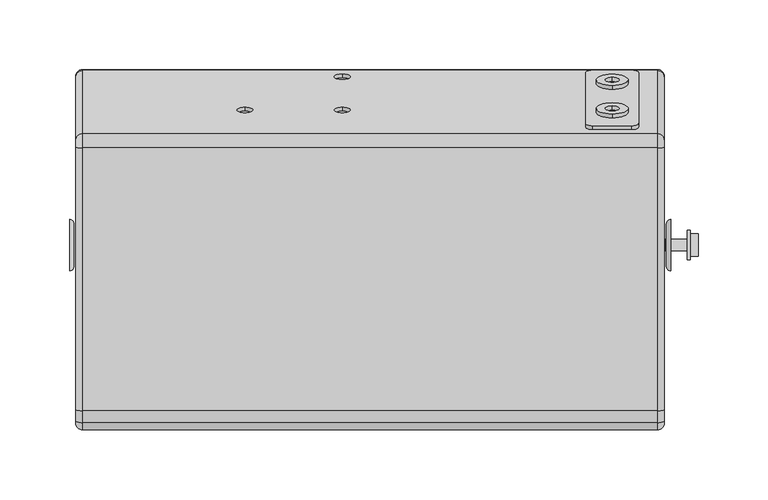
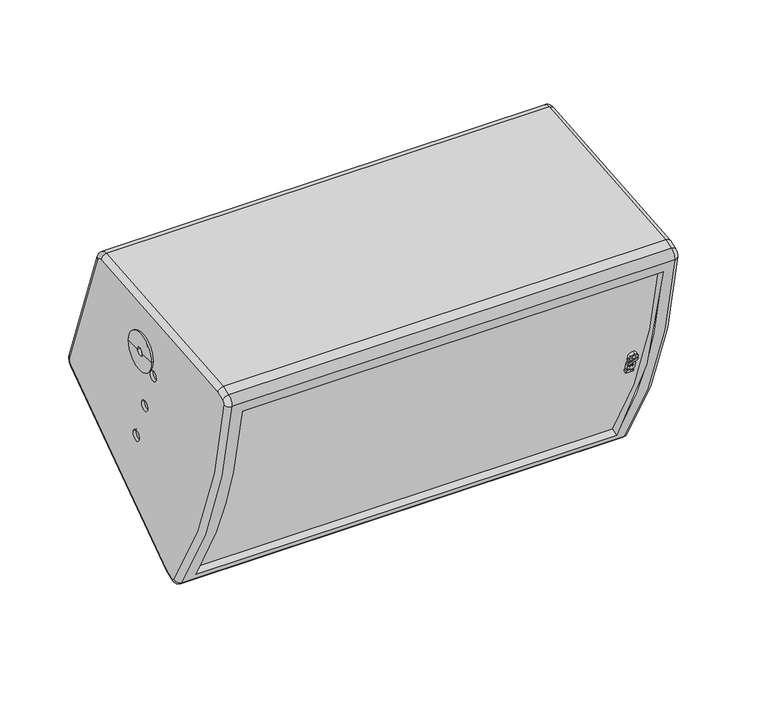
"""IFC4 building model written with IfcOpenShell, lengths in millimetres: proxy geometry, ePS8-WM280-HBRK425-WHM : ePS8-WM280-HBRK425-WHM."""

from ifc_helpers import new_model, si_unit, point, frame, frame_2d, origin, place, context, project, spatial, polyline, circle_curve, ellipse_curve, trimmed, segment, composite_curve, outline, extrude, source, transform, mapped, element, save
from ifc_brep_helpers import plane_surface, cylinder_surface, revolved_surface, advanced_brep


def generic_models_b3d32950(model_context):
    return source(origin(), model_context, "Body", "SolidModel", [
        extrude(outline(polyline([(0.0, 0.0), (7.2797671, 0.0), (7.2797671, -1.8923672), (3.1144368, -1.8923672), (7.2797671, -4.6674641), (7.2797671, -11.5183738), (5.4047959, -12.8369462), (3.8052625, -11.7735691), (5.6771026, -10.4040265), (5.6771026, -7.3703972), (4.4228153, -7.3703972), (4.4228153, -9.65351), (2.820085, -9.65351), (2.820085, -7.3703972), (1.6035818, -7.3703972), (1.6035818, -9.7774718), (0.8035818, -9.7774718), (0.0008515, -9.2438131), (0.0008515, -4.9754371), (4.4509076, -4.9657455), (0.0, -2.0264794), (0.0, 0.0)])), frame((182.0590531, -374.994791, -239.642907), z_axis=(0.0, 0.9396926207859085, 0.34202014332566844), x_axis=(1.0, 0.0, 0.0)), (0.0, 0.0, 1.0), 3.0),
        extrude(outline(polyline([(0.0, -9.8851282), (8.2409469, -15.3637474), (8.2409469, -17.5569501), (0.0, -12.078331), (0.0, -9.8851282)])), frame((182.0590531, -374.994791, -239.642907), z_axis=(0.0, 0.9396926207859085, 0.34202014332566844), x_axis=(1.0, 0.0, 0.0)), (0.0, 0.0, 1.0), 3.0),
        extrude(outline(polyline([(0.0, -16.6257623), (0.0, -14.2989717), (1.267957, -13.5511774), (2.8988509, -14.6354031), (0.0, -16.6257623)])), frame((182.0590531, -374.994791, -239.642907), z_axis=(0.0, 0.9396926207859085, 0.34202014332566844), x_axis=(1.0, 0.0, 0.0)), (0.0, 0.0, 1.0), 3.0),
        extrude(outline(composite_curve([segment(trimmed(circle_curve(frame_2d((3.670838, -20.0113735)), 3.9406238), [point((3.670838, -16.0707496))], [point((3.670838, -23.9519973))], False, "CARTESIAN"), True, "CONTINUOUS"), segment(trimmed(circle_curve(frame_2d((3.670838, -20.0113735)), 3.9406238), [point((3.670838, -23.9519973))], [point((3.670838, -16.0707496))], False, "CARTESIAN"), True, "CONTINUOUS")], self_intersect=False), holes=[composite_curve([segment(trimmed(circle_curve(frame_2d((3.670838, -20.0113735)), 2.0681078), [point((3.670838, -17.9432657))], [point((3.670838, -22.0794813))], True, "CARTESIAN"), True, "CONTINUOUS"), segment(trimmed(circle_curve(frame_2d((3.670838, -20.0113735)), 2.0681078), [point((3.670838, -22.0794813))], [point((3.670838, -17.9432657))], True, "CARTESIAN"), True, "CONTINUOUS")], self_intersect=False)]), frame((182.0590531, -374.994791, -239.642907), z_axis=(0.0, 0.9396926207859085, 0.34202014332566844), x_axis=(1.0, 0.0, 0.0)), (0.0, 0.0, 1.0), 3.0),
        extrude(outline(composite_curve([segment(trimmed(circle_curve(frame_2d((0.0, 5.0)), 11.4515227), [point((0.0, 16.4515227))], [point((0.0, -6.4515227))], False, "CARTESIAN"), True, "CONTINUOUS"), segment(trimmed(circle_curve(frame_2d((0.0, 5.0)), 11.4515227), [point((0.0, -6.4515227))], [point((0.0, 16.4515227))], False, "CARTESIAN"), True, "CONTINUOUS")], self_intersect=False), holes=[composite_curve([segment(trimmed(circle_curve(frame_2d((0.0, 5.0)), 5.0), [point((0.0, 10.0))], [point((0.0, 0.0))], True, "CARTESIAN"), True, "CONTINUOUS"), segment(trimmed(circle_curve(frame_2d((0.0, 5.0)), 5.0), [point((0.0, 0.0))], [point((0.0, 10.0))], True, "CARTESIAN"), True, "CONTINUOUS")], self_intersect=False)]), frame((174.0, -181.8350837, -130.0316775), z_axis=(0.0, 0.9396926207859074, 0.3420201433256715), x_axis=(-1.0, 0.0, 0.0)), (0.0, 0.0, 1.0), 3.0),
        extrude(outline(composite_curve([segment(trimmed(circle_curve(frame_2d((0.0, -54.9999999)), 11.4515227), [point((0.0, -43.5484773))], [point((0.0, -66.4515227))], False, "CARTESIAN"), True, "CONTINUOUS"), segment(trimmed(circle_curve(frame_2d((0.0, -54.9999999)), 11.4515227), [point((0.0, -66.4515227))], [point((0.0, -43.5484773))], False, "CARTESIAN"), True, "CONTINUOUS")], self_intersect=False), holes=[composite_curve([segment(trimmed(circle_curve(frame_2d((0.0, -54.9999999)), 5.0), [point((0.0, -49.9999999))], [point((0.0, -60.0))], True, "CARTESIAN"), True, "CONTINUOUS"), segment(trimmed(circle_curve(frame_2d((0.0, -54.9999999)), 5.0), [point((0.0, -60.0))], [point((0.0, -49.9999999))], True, "CARTESIAN"), True, "CONTINUOUS")], self_intersect=False)]), frame((174.0, -181.8350837, -130.0316775), z_axis=(0.0, 0.9396926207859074, 0.3420201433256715), x_axis=(-1.0, 0.0, 0.0)), (0.0, 0.0, 1.0), 3.0),
        extrude(outline(composite_curve([segment(polyline([(-5.0, -5.0000001), (-5.0, 101.0)]), True, "CONTINUOUS"), segment(trimmed(circle_curve(frame_2d((0.0, 101.0)), 5.0), [point((-5.0, 101.0))], [point((0.0, 106.0))], False, "CARTESIAN"), True, "CONTINUOUS"), segment(polyline([(0.0, 106.0), (28.0, 106.0)]), True, "CONTINUOUS"), segment(trimmed(circle_curve(frame_2d((28.0, 101.0)), 5.0), [point((28.0, 106.0))], [point((33.0, 101.0))], False, "CARTESIAN"), True, "CONTINUOUS"), segment(polyline([(33.0, 101.0), (33.0, -5.0000001)]), True, "CONTINUOUS"), segment(trimmed(circle_curve(frame_2d((28.0, -5.0000001)), 5.0), [point((33.0, -5.0000001))], [point((28.0, -10.0000001))], False, "CARTESIAN"), True, "CONTINUOUS"), segment(polyline([(28.0, -10.0000001), (0.0, -10.0000001)]), True, "CONTINUOUS"), segment(trimmed(circle_curve(frame_2d((0.0, -5.0000001)), 5.0), [point((0.0, -10.0000001))], [point((-5.0, -5.0000001))], False, "CARTESIAN"), True, "CONTINUOUS")], self_intersect=False)), frame((160.0, -192.5206249, -109.4448077), z_axis=(0.0, 0.9396926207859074, 0.3420201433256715), x_axis=(1.0, 0.0, 0.0)), (0.0, 0.0, 1.0), 3.0),
        advanced_brep(
        [(-211.5, -159.9778448, -224.3097239), (-211.5, -314.8456884, -332.7493555), (-211.5, -322.8395243, -335.6588738), (-211.5, -326.3840023, -334.4700024), (-211.5, -406.8753946, -113.3217196), (-211.5, -404.9243587, -110.1326448), (-211.5, -396.9305228, -107.2231265), (-211.5, -208.5912202, -90.7455726), (-211.5, -203.4569784, -94.0164454), (-211.5, -158.1472639, -218.503863), (-211.5, -283.6984631, -193.7113599), (-211.5, -274.3015369, -190.2911584), (-211.5, -270.0176574, -231.2990647), (-211.5, -260.6207312, -227.8788633), (-211.5, -297.3792688, -156.123655), (-211.5, -287.9823426, -152.7034536), (211.5, -314.8456884, -332.7493555), (211.5, -159.9778448, -224.3097239), (211.5, -158.1472639, -218.503863), (211.5, -203.4569784, -94.0164454), (211.5, -208.5912202, -90.7455726), (211.5, -396.9305228, -107.2231265), (211.5, -404.9243587, -110.1326448), (211.5, -406.8753946, -113.3217196), (211.5, -326.3840023, -334.4700024), (211.5, -322.8395243, -335.6588738), (211.5, -274.3015369, -190.2911584), (211.5, -283.6984631, -193.7113599), (211.5, -260.6207312, -227.8788633), (211.5, -270.0176574, -231.2990647), (211.5, -287.9823426, -152.7034536), (211.5, -297.3792688, -156.123655), (-206.5, -153.4488008, -216.7937622), (-206.5, -198.7585153, -92.3063447), (206.5, -198.7585153, -92.3063447), (206.5, -153.4488008, -216.7937622), (-20.0043019, -159.9113018, -199.0381864), (-20.0043019, -156.0419184, -209.6692301), (-20.0043019, -183.8527119, -133.259703), (-20.0043019, -179.9833284, -143.8907467), (-90.0043019, -183.8527119, -133.259703), (-90.0043019, -179.9833284, -143.8907467), (-206.5, -411.8372217, -113.9383812), (-206.5, -330.5813648, -337.1870132), (206.4999999, -330.5813648, -337.1870132), (206.5, -411.8372217, -113.9383812), (-196.5, -335.4073452, -329.5914088), (-196.5, -410.6517768, -122.8590322), (196.5, -410.6517768, -122.8590322), (196.5, -335.4073452, -329.5914088), (-206.5, -406.6344595, -105.4341817), (206.5, -406.6344595, -105.4341817), (-206.5, -398.0220591, -102.2995243), (206.5, -398.0220591, -102.2995243), (-206.5, -209.0269989, -85.7645991), (206.5, -209.0269989, -85.7645991), (-206.5, -157.1099626, -228.4054841), (206.5, -157.1099626, -228.4054841), (-206.5, -312.5170233, -337.2226795), (206.5, -312.5170233, -337.2226795), (-206.5, -321.1294236, -340.3573369), (206.5, -321.1294236, -340.3573369), (-208.5, -274.3015369, -190.2911584), (-208.5, -283.6984631, -193.7113599), (-208.5, -260.6207312, -227.8788633), (-208.5, -270.0176574, -231.2990647), (-208.5, -287.9823426, -152.7034536), (-208.5, -297.3792688, -156.123655), (-196.5, -329.0731273, -327.285942), (-196.5, -404.214505, -120.5160569), (196.5, -404.214505, -120.5160569), (196.5, -329.0731273, -327.285942), (208.5, -274.3015369, -190.2911584), (208.5, -283.6984631, -193.7113599), (208.5, -260.6207312, -227.8788633), (208.5, -270.0176574, -231.2990647), (208.5, -287.9823426, -152.7034536), (208.5, -297.3792688, -156.123655), (-20.0043019, -162.7303797, -200.0642469), (-20.0043019, -158.8609962, -210.6952905), (-20.0043019, -186.6717897, -134.2857634), (-20.0043019, -182.8024063, -144.9168071), (-90.0043019, -186.6717897, -134.2857634), (-90.0043019, -182.8024063, -144.9168071)],
        [
            (0, 1),
            (1, 2),
            (2, 3, circle_curve(frame((-211.5, -323.8655848, -332.8397959), z_axis=(-1.0, 0.0, 0.0), x_axis=(0.0, -0.839472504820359, -0.5434021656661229)), 3.0)),
            (3, 4, circle_curve(frame((-211.5, 115.5613142, -48.3926852), z_axis=(-1.0, 0.0, 0.0), x_axis=(0.0, -0.9923654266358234, -0.12333231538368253)), 526.4559755)),
            (4, 5, circle_curve(frame((-211.5, -403.8982983, -112.9517227), z_axis=(-1.0, 0.0, 0.0), x_axis=(0.0, -0.3420201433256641, 0.9396926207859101)), 3.0)),
            (5, 6),
            (6, 7),
            (7, 8, circle_curve(frame((-211.5, -208.1554415, -95.7265461), z_axis=(-1.0, 0.0, 0.0), x_axis=(0.0, 0.9396926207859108, 0.3420201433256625)), 5.0)),
            (8, 9),
            (9, 0, circle_curve(frame((-211.5, -162.845727, -220.2139637), z_axis=(-1.0, 0.0, 0.0), x_axis=(0.0, 0.5735764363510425, -0.8191520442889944)), 5.0)),
            (10, 11, circle_curve(frame((-211.5, -279.0, -192.0012591), z_axis=(1.0, 0.0, 0.0), x_axis=(0.0, -0.9396926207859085, -0.34202014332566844)), 5.0)),
            (11, 10, circle_curve(frame((-211.5, -279.0, -192.0012591), z_axis=(1.0, 0.0, 0.0), x_axis=(0.0, -0.9396926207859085, -0.34202014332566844)), 5.0)),
            (12, 13, circle_curve(frame((-211.5, -265.3191943, -229.588964), z_axis=(1.0, 0.0, 0.0), x_axis=(0.0, -0.9396926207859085, -0.34202014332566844)), 5.0)),
            (13, 12, circle_curve(frame((-211.5, -265.3191943, -229.588964), z_axis=(1.0, 0.0, 0.0), x_axis=(0.0, -0.9396926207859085, -0.34202014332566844)), 5.0)),
            (14, 15, circle_curve(frame((-211.5, -292.6808057, -154.4135543), z_axis=(1.0, 0.0, 0.0), x_axis=(0.0, -0.9396926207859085, -0.34202014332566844)), 5.0)),
            (15, 14, circle_curve(frame((-211.5, -292.6808057, -154.4135543), z_axis=(1.0, 0.0, 0.0), x_axis=(0.0, -0.9396926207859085, -0.34202014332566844)), 5.0)),
            (16, 17),
            (17, 18, circle_curve(frame((211.5, -162.845727, -220.2139637), z_axis=(1.0, 0.0, 0.0), x_axis=(0.0, 0.5735764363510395, -0.8191520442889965)), 5.0)),
            (18, 19),
            (19, 20, circle_curve(frame((211.5, -208.1554415, -95.7265461), z_axis=(1.0, 0.0, 0.0), x_axis=(0.0, 0.9396926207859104, 0.34202014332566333)), 5.0)),
            (20, 21),
            (21, 22),
            (22, 23, circle_curve(frame((211.5, -403.8982983, -112.9517227), z_axis=(1.0, 0.0, 0.0), x_axis=(0.0, -0.3420201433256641, 0.9396926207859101)), 3.0)),
            (23, 24, circle_curve(frame((211.5, 115.5613142, -48.3926852), z_axis=(1.0, 0.0, 0.0), x_axis=(0.0, -0.9923654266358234, -0.12333231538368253)), 526.4559755)),
            (24, 25, circle_curve(frame((211.5, -323.8655848, -332.8397959), z_axis=(1.0, 0.0, 0.0), x_axis=(0.0, -0.839472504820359, -0.5434021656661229)), 3.0)),
            (25, 16),
            (26, 27, circle_curve(frame((211.5, -279.0, -192.0012591), z_axis=(-1.0, 0.0, 0.0), x_axis=(0.0, -0.9396926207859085, -0.34202014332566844)), 5.0)),
            (27, 26, circle_curve(frame((211.5, -279.0, -192.0012591), z_axis=(-1.0, 0.0, 0.0), x_axis=(0.0, -0.9396926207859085, -0.34202014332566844)), 5.0)),
            (28, 29, circle_curve(frame((211.5, -265.3191943, -229.588964), z_axis=(-1.0, 0.0, 0.0), x_axis=(0.0, -0.9396926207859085, -0.34202014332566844)), 5.0)),
            (29, 28, circle_curve(frame((211.5, -265.3191943, -229.588964), z_axis=(-1.0, 0.0, 0.0), x_axis=(0.0, -0.9396926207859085, -0.34202014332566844)), 5.0)),
            (30, 31, circle_curve(frame((211.5, -292.6808057, -154.4135543), z_axis=(-1.0, 0.0, 0.0), x_axis=(0.0, -0.9396926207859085, -0.34202014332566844)), 5.0)),
            (31, 30, circle_curve(frame((211.5, -292.6808057, -154.4135543), z_axis=(-1.0, 0.0, 0.0), x_axis=(0.0, -0.9396926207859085, -0.34202014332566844)), 5.0)),
            (32, 33),
            (33, 34),
            (34, 35),
            (35, 32),
            (36, 37, circle_curve(frame((-20.0043019, -157.9766101, -204.3537083), z_axis=(0.0, -0.9396926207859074, -0.3420201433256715), x_axis=(0.0, 0.3420201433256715, -0.9396926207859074)), 5.6566602)),
            (37, 36, circle_curve(frame((-20.0043019, -157.9766101, -204.3537083), z_axis=(0.0, -0.9396926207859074, -0.3420201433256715), x_axis=(0.0, 0.3420201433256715, -0.9396926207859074)), 5.6566602)),
            (38, 39, circle_curve(frame((-20.0043019, -181.9180201, -138.5752248), z_axis=(0.0, -0.9396926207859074, -0.3420201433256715), x_axis=(0.0, 0.3420201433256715, -0.9396926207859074)), 5.6566602)),
            (39, 38, circle_curve(frame((-20.0043019, -181.9180201, -138.5752248), z_axis=(0.0, -0.9396926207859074, -0.3420201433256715), x_axis=(0.0, 0.3420201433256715, -0.9396926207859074)), 5.6566602)),
            (40, 41, circle_curve(frame((-90.0043019, -181.9180201, -138.5752248), z_axis=(0.0, -0.9396926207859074, -0.3420201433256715), x_axis=(0.0, 0.3420201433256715, -0.9396926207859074)), 5.6566602)),
            (41, 40, circle_curve(frame((-90.0043019, -181.9180201, -138.5752248), z_axis=(0.0, -0.9396926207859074, -0.3420201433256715), x_axis=(0.0, 0.3420201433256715, -0.9396926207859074)), 5.6566602)),
            (42, 43, circle_curve(frame((-206.5, 115.5613142, -48.3926852), z_axis=(1.0, 0.0, 0.0), x_axis=(0.0, -0.34202014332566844, 0.9396926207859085)), 531.4559755)),
            (43, 44),
            (44, 45, circle_curve(frame((206.5, 115.5613142, -48.3926852), z_axis=(-1.0, 0.0, 0.0), x_axis=(0.0, -0.34202014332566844, 0.9396926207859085)), 531.4559755)),
            (45, 42),
            (46, 47, circle_curve(frame((-196.5, 115.5613142, -48.3926852), z_axis=(-1.0, 0.0, 0.0), x_axis=(0.0, -0.34202014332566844, 0.9396926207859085)), 531.4559755)),
            (47, 48),
            (48, 49, circle_curve(frame((196.5, 115.5613142, -48.3926852), z_axis=(1.0, 0.0, 0.0), x_axis=(0.0, -0.34202014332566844, 0.9396926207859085)), 531.4559755)),
            (49, 46),
            (50, 42, circle_curve(frame((-206.5, -403.8982983, -112.9517227), z_axis=(1.0, 0.0, 0.0), x_axis=(0.0, -0.34202014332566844, 0.9396926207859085)), 8.0)),
            (45, 51, circle_curve(frame((206.5, -403.8982983, -112.9517227), z_axis=(-1.0, 0.0, 0.0), x_axis=(0.0, -0.34202014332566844, 0.9396926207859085)), 8.0)),
            (51, 50),
            (52, 50),
            (51, 53),
            (53, 52),
            (54, 52),
            (53, 55),
            (55, 54),
            (33, 54, circle_curve(frame((-206.5, -208.1554415, -95.7265461), z_axis=(1.0, 0.0, 0.0), x_axis=(0.0, -0.34202014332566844, 0.9396926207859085)), 10.0)),
            (55, 34, circle_curve(frame((206.5, -208.1554415, -95.7265461), z_axis=(-1.0, 0.0, 0.0), x_axis=(0.0, -0.34202014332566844, 0.9396926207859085)), 10.0)),
            (56, 32, circle_curve(frame((-206.5, -162.845727, -220.2139637), z_axis=(1.0, 0.0, 0.0), x_axis=(0.0, -0.34202014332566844, 0.9396926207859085)), 10.0)),
            (35, 57, circle_curve(frame((206.5, -162.845727, -220.2139637), z_axis=(-1.0, 0.0, 0.0), x_axis=(0.0, -0.34202014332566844, 0.9396926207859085)), 10.0)),
            (57, 56),
            (58, 56),
            (57, 59),
            (59, 58),
            (60, 58),
            (59, 61),
            (61, 60),
            (43, 60, circle_curve(frame((-206.5, -323.8655848, -332.8397959), z_axis=(1.0, 0.0, 0.0), x_axis=(0.0, -0.34202014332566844, 0.9396926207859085)), 8.0)),
            (61, 44, circle_curve(frame((206.5, -323.8655848, -332.8397959), z_axis=(-1.0, 0.0, 0.0), x_axis=(0.0, -0.34202014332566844, 0.9396926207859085)), 8.0)),
            (62, 63, circle_curve(frame((-208.5, -279.0, -192.0012591), z_axis=(-1.0, 0.0, 0.0), x_axis=(0.0, -0.9396926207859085, -0.34202014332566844)), 5.0)),
            (63, 62, circle_curve(frame((-208.5, -279.0, -192.0012591), z_axis=(-1.0, 0.0, 0.0), x_axis=(0.0, -0.9396926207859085, -0.34202014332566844)), 5.0)),
            (64, 65, circle_curve(frame((-208.5, -265.3191943, -229.588964), z_axis=(-1.0, 0.0, 0.0), x_axis=(0.0, -0.9396926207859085, -0.34202014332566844)), 5.0)),
            (65, 64, circle_curve(frame((-208.5, -265.3191943, -229.588964), z_axis=(-1.0, 0.0, 0.0), x_axis=(0.0, -0.9396926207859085, -0.34202014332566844)), 5.0)),
            (66, 67, circle_curve(frame((-208.5, -292.6808057, -154.4135543), z_axis=(-1.0, 0.0, 0.0), x_axis=(0.0, -0.9396926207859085, -0.34202014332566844)), 5.0)),
            (67, 66, circle_curve(frame((-208.5, -292.6808057, -154.4135543), z_axis=(-1.0, 0.0, 0.0), x_axis=(0.0, -0.9396926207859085, -0.34202014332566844)), 5.0)),
            (62, 11),
            (10, 63),
            (64, 13),
            (12, 65),
            (66, 15),
            (14, 67),
            (46, 68),
            (68, 69, circle_curve(frame((-196.5, 112.4248593, -49.8046593), z_axis=(-1.0, 0.0, 0.0), x_axis=(0.0, -0.34202014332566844, 0.9396926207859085)), 521.4559755)),
            (69, 47),
            (48, 70),
            (70, 71, circle_curve(frame((196.5, 112.4248593, -49.8046593), z_axis=(1.0, 0.0, 0.0), x_axis=(0.0, -0.34202014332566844, 0.9396926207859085)), 521.4559755)),
            (71, 49),
            (69, 70),
            (68, 71),
            (0, 56, circle_curve(frame((-206.5, -159.9778448, -224.3097239), z_axis=(0.0, -0.8191520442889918, -0.5735764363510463), x_axis=(0.0, 0.5735764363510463, -0.8191520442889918)), 5.0)),
            (58, 1, ellipse_curve(frame((-206.5, -314.8456884, -332.7493555), z_axis=(0.0, 0.8870108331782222, 0.46174861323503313), x_axis=(0.0, -0.46174861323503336, 0.8870108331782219)), 5.0431448, 5.0)),
            (9, 32, circle_curve(frame((-206.5, -158.1472639, -218.503863), z_axis=(0.0, 0.34202014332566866, -0.9396926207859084), x_axis=(0.0, 0.9396926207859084, 0.34202014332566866)), 5.0)),
            (8, 33, circle_curve(frame((-206.5, -203.4569784, -94.0164454), z_axis=(0.0, 0.34202014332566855, -0.9396926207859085), x_axis=(0.0, 0.9396926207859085, 0.34202014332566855)), 5.0)),
            (7, 54, circle_curve(frame((-206.5, -208.5912202, -90.7455726), z_axis=(0.0, 0.9961946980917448, 0.08715574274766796), x_axis=(0.0, -0.08715574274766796, 0.9961946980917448)), 5.0)),
            (6, 52, ellipse_curve(frame((-206.5, -396.9305228, -107.2231265), z_axis=(0.0, 0.9762960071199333, 0.21643961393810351), x_axis=(0.0, -0.2164396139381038, 0.9762960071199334)), 5.0431448, 5.0)),
            (60, 2, circle_curve(frame((-206.5, -322.8395243, -335.6588738), z_axis=(0.0, 0.9396926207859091, 0.3420201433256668), x_axis=(0.0, 0.3420201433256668, -0.9396926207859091)), 5.0)),
            (5, 50, circle_curve(frame((-206.5, -404.9243587, -110.1326448), z_axis=(0.0, 0.9396926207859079, 0.3420201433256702), x_axis=(0.0, -0.3420201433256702, 0.9396926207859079)), 5.0)),
            (4, 42, circle_curve(frame((-206.5, -406.8753946, -113.3217196), z_axis=(0.0, -0.12333231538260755, 0.9923654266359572), x_axis=(0.0, -0.9923654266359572, -0.12333231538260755)), 5.0)),
            (3, 43, circle_curve(frame((-206.5, -326.3840023, -334.4700024), z_axis=(0.0, -0.5434021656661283, 0.8394725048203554), x_axis=(0.0, -0.8394725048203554, -0.5434021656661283)), 5.0)),
            (57, 17, circle_curve(frame((206.5, -159.9778448, -224.3097239), z_axis=(0.0, -0.8191520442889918, -0.5735764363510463), x_axis=(0.0, 0.5735764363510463, -0.8191520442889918)), 5.0)),
            (16, 59, ellipse_curve(frame((206.5, -314.8456884, -332.7493555), z_axis=(0.0, 0.8870108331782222, 0.4617486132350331), x_axis=(0.0, -0.4617486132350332, 0.887010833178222)), 5.0431448, 5.0)),
            (35, 18, circle_curve(frame((206.5, -158.1472639, -218.503863), z_axis=(0.0, 0.34202014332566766, -0.9396926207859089), x_axis=(0.0, 0.9396926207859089, 0.34202014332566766)), 5.0)),
            (34, 19, circle_curve(frame((206.5, -203.4569784, -94.0164454), z_axis=(0.0, 0.3420201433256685, -0.9396926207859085), x_axis=(0.0, 0.9396926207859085, 0.3420201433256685)), 5.0)),
            (55, 20, circle_curve(frame((206.5, -208.5912202, -90.7455726), z_axis=(0.0, 0.9961946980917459, 0.08715574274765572), x_axis=(0.0, -0.08715574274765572, 0.9961946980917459)), 5.0)),
            (53, 21, ellipse_curve(frame((206.5, -396.9305228, -107.2231265), z_axis=(0.0, 0.9762960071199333, 0.21643961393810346), x_axis=(0.0, -0.2164396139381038, 0.9762960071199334)), 5.0431448, 5.0)),
            (25, 61, circle_curve(frame((206.5, -322.8395243, -335.6588738), z_axis=(0.0, 0.9396926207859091, 0.34202014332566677), x_axis=(0.0, 0.34202014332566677, -0.9396926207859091)), 5.0)),
            (51, 22, circle_curve(frame((206.5, -404.9243587, -110.1326448), z_axis=(0.0, 0.9396926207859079, 0.3420201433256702), x_axis=(0.0, -0.3420201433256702, 0.9396926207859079)), 5.0)),
            (45, 23, circle_curve(frame((206.5, -406.8753946, -113.3217196), z_axis=(0.0, -0.12333231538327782, 0.9923654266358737), x_axis=(0.0, -0.9923654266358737, -0.12333231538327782)), 5.0)),
            (44, 24, circle_curve(frame((206.5, -326.3840023, -334.4700024), z_axis=(0.0, -0.5434021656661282, 0.8394725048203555), x_axis=(0.0, -0.8394725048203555, -0.5434021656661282)), 5.0)),
            (72, 73, circle_curve(frame((208.5, -279.0, -192.0012591), z_axis=(1.0, 0.0, 0.0), x_axis=(0.0, -0.9396926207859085, -0.34202014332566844)), 5.0)),
            (73, 72, circle_curve(frame((208.5, -279.0, -192.0012591), z_axis=(1.0, 0.0, 0.0), x_axis=(0.0, -0.9396926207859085, -0.34202014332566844)), 5.0)),
            (74, 75, circle_curve(frame((208.5, -265.3191943, -229.588964), z_axis=(1.0, 0.0, 0.0), x_axis=(0.0, -0.9396926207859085, -0.34202014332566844)), 5.0)),
            (75, 74, circle_curve(frame((208.5, -265.3191943, -229.588964), z_axis=(1.0, 0.0, 0.0), x_axis=(0.0, -0.9396926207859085, -0.34202014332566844)), 5.0)),
            (76, 77, circle_curve(frame((208.5, -292.6808057, -154.4135543), z_axis=(1.0, 0.0, 0.0), x_axis=(0.0, -0.9396926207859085, -0.34202014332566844)), 5.0)),
            (77, 76, circle_curve(frame((208.5, -292.6808057, -154.4135543), z_axis=(1.0, 0.0, 0.0), x_axis=(0.0, -0.9396926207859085, -0.34202014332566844)), 5.0)),
            (73, 27),
            (26, 72),
            (75, 29),
            (28, 74),
            (77, 31),
            (30, 76),
            (78, 79, circle_curve(frame((-20.0043019, -160.795688, -205.3797687), z_axis=(0.0, 0.9396926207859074, 0.3420201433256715), x_axis=(0.0, 0.3420201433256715, -0.9396926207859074)), 5.6566602)),
            (79, 78, circle_curve(frame((-20.0043019, -160.795688, -205.3797687), z_axis=(0.0, 0.9396926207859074, 0.3420201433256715), x_axis=(0.0, 0.3420201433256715, -0.9396926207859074)), 5.6566602)),
            (80, 81, circle_curve(frame((-20.0043019, -184.737098, -139.6012852), z_axis=(0.0, 0.9396926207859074, 0.3420201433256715), x_axis=(0.0, 0.3420201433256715, -0.9396926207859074)), 5.6566602)),
            (81, 80, circle_curve(frame((-20.0043019, -184.737098, -139.6012852), z_axis=(0.0, 0.9396926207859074, 0.3420201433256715), x_axis=(0.0, 0.3420201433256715, -0.9396926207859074)), 5.6566602)),
            (82, 83, circle_curve(frame((-90.0043019, -184.737098, -139.6012852), z_axis=(0.0, 0.9396926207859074, 0.3420201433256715), x_axis=(0.0, 0.3420201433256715, -0.9396926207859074)), 5.6566602)),
            (83, 82, circle_curve(frame((-90.0043019, -184.737098, -139.6012852), z_axis=(0.0, 0.9396926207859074, 0.3420201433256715), x_axis=(0.0, 0.3420201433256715, -0.9396926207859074)), 5.6566602)),
            (79, 37),
            (36, 78),
            (81, 39),
            (38, 80),
            (83, 41),
            (40, 82),
        ],
        [
            plane_surface(frame((-211.5, -406.6344595, -105.4341817), z_axis=(-1.0, 0.0, 0.0), x_axis=(0.0, 0.9396926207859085, 0.34202014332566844))),
            plane_surface(frame((211.5, -406.6344595, -105.4341817), z_axis=(1.0, 0.0, 0.0), x_axis=(0.0, -0.9396926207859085, -0.34202014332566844))),
            plane_surface(frame((-211.5, -198.7585153, -92.3063447), z_axis=(0.0, 0.9396926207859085, 0.34202014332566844), x_axis=(1.0, 0.0, 0.0))),
            cylinder_surface(frame((211.5, 115.5613142, -48.3926852), z_axis=(-1.0, 0.0, 0.0), x_axis=(0.0, -0.34202014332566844, 0.9396926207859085)), 531.4559755),
            cylinder_surface(frame((211.5, -403.8982983, -112.9517227), z_axis=(-1.0, 0.0, 0.0), x_axis=(0.0, -0.34202014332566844, 0.9396926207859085)), 8.0),
            plane_surface(frame((-211.5, -406.6344595, -105.4341817), z_axis=(0.0, -0.34202014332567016, 0.9396926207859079), x_axis=(1.0, 0.0, 0.0))),
            plane_surface(frame((-211.5, -398.0220591, -102.2995243), z_axis=(0.0, -0.08715574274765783, 0.9961946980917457), x_axis=(1.0, 0.0, 0.0))),
            cylinder_surface(frame((211.5, -208.1554415, -95.7265461), z_axis=(-1.0, 0.0, 0.0), x_axis=(0.0, -0.34202014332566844, 0.9396926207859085)), 10.0),
            cylinder_surface(frame((211.5, -162.845727, -220.2139637), z_axis=(-1.0, 0.0, 0.0), x_axis=(0.0, -0.34202014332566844, 0.9396926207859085)), 10.0),
            plane_surface(frame((-211.5, -157.1099626, -228.4054841), z_axis=(0.0, 0.5735764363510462, -0.8191520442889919), x_axis=(1.0, 0.0, 0.0))),
            plane_surface(frame((-211.5, -312.5170233, -337.2226795), z_axis=(0.0, 0.3420201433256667, -0.9396926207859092), x_axis=(1.0, 0.0, 0.0))),
            cylinder_surface(frame((211.5, -323.8655848, -332.8397959), z_axis=(-1.0, 0.0, 0.0), x_axis=(0.0, -0.34202014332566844, 0.9396926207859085)), 8.0),
            plane_surface(frame((-208.5, -283.6984631, -193.7113599), z_axis=(-1.0, 0.0, 0.0), x_axis=(0.0, 0.34202014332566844, -0.9396926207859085))),
            revolved_surface(polyline([(-211.5, -283.69846310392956, -193.71135981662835), (-208.5, -283.69846310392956, -193.71135981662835)]), (-208.5, -279.0, -192.0012591), (-1.0, 0.0, 0.0)),
            revolved_surface(polyline([(-211.5, -270.01765740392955, -231.29906471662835), (-208.5, -270.01765740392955, -231.29906471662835)]), (-211.5, -265.3191943, -229.588964), (-1.0, 0.0, 0.0)),
            revolved_surface(polyline([(-211.5, -297.37926880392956, -156.12365501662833), (-208.5, -297.37926880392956, -156.12365501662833)]), (-211.5, -292.6808057, -154.4135543), (-1.0, 0.0, 0.0)),
            plane_surface(frame((-196.5, -464.8680464, -142.5921405), z_axis=(1.0, 0.0, 0.0), x_axis=(0.0, 0.9396926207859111, 0.3420201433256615))),
            plane_surface(frame((196.5, -464.8680464, -142.5921405), z_axis=(-1.0, 0.0, 0.0), x_axis=(0.0, -0.9396926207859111, -0.3420201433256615))),
            plane_surface(frame((-196.5, -410.6517768, -122.8590322), z_axis=(0.0, 0.3420201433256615, -0.9396926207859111), x_axis=(1.0, 0.0, 0.0))),
            cylinder_surface(frame((196.5, 112.4248593, -49.8046593), z_axis=(1.0, 0.0, 0.0), x_axis=(0.0, -0.34202014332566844, 0.9396926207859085)), 521.4559755),
            plane_surface(frame((-196.5, -329.0731273, -327.285942), z_axis=(0.0, -0.3420201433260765, 0.93969262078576), x_axis=(1.0, 0.0, 0.0))),
            cylinder_surface(frame((-206.5, -315.3849055, -333.1269193), z_axis=(0.0, 0.8191520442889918, 0.5735764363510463), x_axis=(0.0, 0.5735764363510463, -0.8191520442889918)), 5.0),
            revolved_surface(trimmed(ellipse_curve(frame((-206.5, -159.9778448, -224.3097239), z_axis=(0.0, -0.8191520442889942, -0.5735764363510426), x_axis=(0.0, 0.5735764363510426, -0.8191520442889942)), 5.0, 5.0), [point((-211.5, -159.9778448, -224.3097239))], [point((-206.5, -157.1099626, -228.4054841))], True, "CARTESIAN"), (-211.5, -162.845727, -220.2139637), (1.0, 0.0, 0.0)),
            cylinder_surface(frame((-206.5, -158.1472639, -218.503863), z_axis=(0.0, -0.34202014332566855, 0.9396926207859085), x_axis=(0.0, 0.9396926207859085, 0.34202014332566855)), 5.0),
            revolved_surface(trimmed(ellipse_curve(frame((-206.5, -203.4569784, -94.0164454), z_axis=(0.0, 0.34202014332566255, -0.9396926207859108), x_axis=(0.0, 0.9396926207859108, 0.34202014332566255)), 5.0, 5.0), [point((-211.5, -203.4569784, -94.0164454))], [point((-206.5, -198.7585153, -92.3063447))], True, "CARTESIAN"), (-211.5, -208.1554415, -95.7265461), (1.0, 0.0, 0.0)),
            cylinder_surface(frame((-206.5, -208.5912202, -90.7455726), z_axis=(0.0, -0.9961946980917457, -0.08715574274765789), x_axis=(0.0, -0.08715574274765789, 0.9961946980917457)), 5.0),
            cylinder_surface(frame((-206.5, -322.8395243, -335.6588738), z_axis=(0.0, 0.9396926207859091, 0.3420201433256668), x_axis=(0.0, 0.3420201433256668, -0.9396926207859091)), 5.0),
            cylinder_surface(frame((-206.5, -396.3119584, -106.9979874), z_axis=(0.0, -0.9396926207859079, -0.3420201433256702), x_axis=(0.0, -0.3420201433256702, 0.9396926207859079)), 5.0),
            revolved_surface(trimmed(ellipse_curve(frame((-206.5, -404.9243587, -110.1326448), z_axis=(0.0, 0.9396926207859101, 0.34202014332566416), x_axis=(0.0, -0.34202014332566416, 0.9396926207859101)), 5.0, 5.0), [point((-211.5, -404.9243587, -110.1326448))], [point((-206.5, -406.6344595, -105.4341817))], True, "CARTESIAN"), (-211.5, -403.8982983, -112.9517227), (1.0, 0.0, 0.0)),
            revolved_surface(trimmed(ellipse_curve(frame((-206.5, -406.8753946, -113.3217196), z_axis=(0.0, -0.12333231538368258, 0.9923654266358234), x_axis=(0.0, -0.9923654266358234, -0.12333231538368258)), 5.0, 5.0), [point((-211.5, -406.8753946, -113.3217196))], [point((-206.5, -411.8372217, -113.9383812))], True, "CARTESIAN"), (-211.5, 115.5613142, -48.3926852), (1.0, 0.0, 0.0)),
            revolved_surface(trimmed(ellipse_curve(frame((-206.5, -326.3840023, -334.4700024), z_axis=(0.0, -0.543402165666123, 0.8394725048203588), x_axis=(0.0, -0.8394725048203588, -0.543402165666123)), 5.0, 5.0), [point((-211.5, -326.3840023, -334.4700024))], [point((-206.5, -330.5813648, -337.1870132))], True, "CARTESIAN"), (-211.5, -323.8655848, -332.8397959), (1.0, 0.0, 0.0)),
            cylinder_surface(frame((206.5, -315.3849055, -333.1269193), z_axis=(0.0, 0.8191520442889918, 0.5735764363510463), x_axis=(0.0, 0.5735764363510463, -0.8191520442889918)), 5.0),
            revolved_surface(trimmed(ellipse_curve(frame((206.5, -159.9778448, -224.3097239), z_axis=(0.0, -0.8191520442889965, -0.5735764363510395), x_axis=(0.0, 0.5735764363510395, -0.8191520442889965)), 5.0, 5.0), [point((206.5, -157.1099626, -228.4054841))], [point((211.5, -159.9778448, -224.3097239))], True, "CARTESIAN"), (211.5, -162.845727, -220.2139637), (1.0, 0.0, 0.0)),
            cylinder_surface(frame((206.5, -158.1472639, -218.503863), z_axis=(0.0, -0.3420201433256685, 0.9396926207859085), x_axis=(0.0, 0.9396926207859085, 0.3420201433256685)), 5.0),
            revolved_surface(trimmed(ellipse_curve(frame((206.5, -203.4569784, -94.0164454), z_axis=(0.0, 0.3420201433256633, -0.9396926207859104), x_axis=(0.0, 0.9396926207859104, 0.3420201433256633)), 5.0, 5.0), [point((206.5, -198.7585153, -92.3063447))], [point((211.5, -203.4569784, -94.0164454))], True, "CARTESIAN"), (211.5, -208.1554415, -95.7265461), (1.0, 0.0, 0.0)),
            cylinder_surface(frame((206.5, -208.5912202, -90.7455726), z_axis=(0.0, -0.9961946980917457, -0.08715574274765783), x_axis=(0.0, -0.08715574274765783, 0.9961946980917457)), 5.0),
            cylinder_surface(frame((206.5, -322.8395243, -335.6588738), z_axis=(0.0, 0.9396926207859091, 0.34202014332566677), x_axis=(0.0, 0.34202014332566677, -0.9396926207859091)), 5.0),
            cylinder_surface(frame((206.5, -396.3119584, -106.9979874), z_axis=(0.0, -0.9396926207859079, -0.3420201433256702), x_axis=(0.0, -0.3420201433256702, 0.9396926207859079)), 5.0),
            revolved_surface(trimmed(ellipse_curve(frame((206.5, -404.9243587, -110.1326448), z_axis=(0.0, 0.9396926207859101, 0.34202014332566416), x_axis=(0.0, -0.34202014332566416, 0.9396926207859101)), 5.0, 5.0), [point((206.5, -406.6344595, -105.4341817))], [point((211.5, -404.9243587, -110.1326448))], True, "CARTESIAN"), (211.5, -403.8982983, -112.9517227), (1.0, 0.0, 0.0)),
            revolved_surface(trimmed(ellipse_curve(frame((206.5, -406.8753946, -113.3217196), z_axis=(0.0, -0.12333231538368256, 0.9923654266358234), x_axis=(0.0, -0.9923654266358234, -0.12333231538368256)), 5.0, 5.0), [point((206.5, -411.8372217, -113.9383812))], [point((211.5, -406.8753946, -113.3217196))], True, "CARTESIAN"), (211.5, 115.5613142, -48.3926852), (1.0, 0.0, 0.0)),
            revolved_surface(trimmed(ellipse_curve(frame((206.5, -326.3840023, -334.4700024), z_axis=(0.0, -0.543402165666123, 0.8394725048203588), x_axis=(0.0, -0.8394725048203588, -0.543402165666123)), 5.0, 5.0), [point((206.5, -330.5813648, -337.1870132))], [point((211.5, -326.3840023, -334.4700024))], True, "CARTESIAN"), (211.5, -323.8655848, -332.8397959), (1.0, 0.0, 0.0)),
            plane_surface(frame((208.5, -283.6984631, -193.7113599), z_axis=(1.0, 0.0, 0.0), x_axis=(0.0, -0.34202014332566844, 0.9396926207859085))),
            revolved_surface(polyline([(208.5, -283.69846310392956, -193.71135981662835), (211.5, -283.69846310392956, -193.71135981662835)]), (214.5, -279.0, -192.0012591), (-1.0, 0.0, 0.0)),
            revolved_surface(polyline([(208.5, -270.01765740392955, -231.29906471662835), (211.5, -270.01765740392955, -231.29906471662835)]), (211.5, -265.3191943, -229.588964), (-1.0, 0.0, 0.0)),
            revolved_surface(polyline([(208.5, -297.37926880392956, -156.12365501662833), (211.5, -297.37926880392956, -156.12365501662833)]), (211.5, -292.6808057, -154.4135543), (-1.0, 0.0, 0.0)),
            plane_surface(frame((-20.0043019, -158.8609962, -210.6952905), z_axis=(0.0, 0.9396926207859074, 0.3420201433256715), x_axis=(1.0, 0.0, 0.0))),
            revolved_surface(polyline([(-20.0043019, -156.04191833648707, -209.66923009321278), (-20.0043019, -158.8609962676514, -210.69529054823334)]), (-20.0043019, -160.795688, -205.3797687), (0.0, 0.9396926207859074, 0.3420201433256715)),
            revolved_surface(polyline([(-20.0043019, -179.98332836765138, -143.89074664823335), (-20.0043019, -182.80240629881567, -144.91680710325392)]), (-20.0043019, -181.9180201, -138.5752248), (0.0, 0.9396926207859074, 0.3420201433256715)),
            revolved_surface(polyline([(-90.0043019, -179.98332836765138, -143.89074664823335), (-90.0043019, -182.80240629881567, -144.91680710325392)]), (-90.0043019, -181.9180201, -138.5752248), (0.0, 0.9396926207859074, 0.3420201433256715)),
        ],
        [
            (0, [[1, 2, 3, 4, 5, 6, 7, 8, 9, 10], [11, 12], [13, 14], [15, 16]]),
            (1, [[17, 18, 19, 20, 21, 22, 23, 24, 25, 26], [27, 28], [29, 30], [31, 32]]),
            (2, [[33, 34, 35, 36], [37, 38], [39, 40], [41, 42]]),
            (3, [[43, 44, 45, 46], [47, 48, 49, 50]]),
            (4, [[51, -46, 52, 53]]),
            (5, [[54, -53, 55, 56]]),
            (6, [[57, -56, 58, 59]]),
            (7, [[60, -59, 61, -34]]),
            (8, [[62, -36, 63, 64]]),
            (9, [[65, -64, 66, 67]]),
            (10, [[68, -67, 69, 70]]),
            (11, [[71, -70, 72, -44]]),
            (12, [[73, 74]]),
            (12, [[75, 76]]),
            (12, [[77, 78]]),
            (13, [[-73, 79, -11, 80]]),
            (13, [[-74, -80, -12, -79]]),
            (14, [[-75, 81, -13, 82]]),
            (14, [[-76, -82, -14, -81]]),
            (15, [[-77, 83, -15, 84]]),
            (15, [[-78, -84, -16, -83]]),
            (16, [[85, 86, 87, -47]]),
            (17, [[88, 89, 90, -49]]),
            (18, [[-87, 91, -88, -48]]),
            (19, [[-86, 92, -89, -91]]),
            (20, [[-85, -50, -90, -92]]),
            (21, [[93, -65, 94, -1]]),
            (22, [[-93, -10, 95, -62]]),
            (23, [[-95, -9, 96, -33]]),
            (24, [[-96, -8, 97, -60]]),
            (25, [[-97, -7, 98, -57]]),
            (26, [[-94, -68, 99, -2]]),
            (27, [[-98, -6, 100, -54]]),
            (28, [[-100, -5, 101, -51]]),
            (29, [[-101, -4, 102, -43]]),
            (30, [[-99, -71, -102, -3]]),
            (31, [[103, -17, 104, -66]]),
            (32, [[-103, -63, 105, -18]]),
            (33, [[-105, -35, 106, -19]]),
            (34, [[-106, -61, 107, -20]]),
            (35, [[-107, -58, 108, -21]]),
            (36, [[-104, -26, 109, -69]]),
            (37, [[-108, -55, 110, -22]]),
            (38, [[-110, -52, 111, -23]]),
            (39, [[-111, -45, 112, -24]]),
            (40, [[-109, -25, -112, -72]]),
            (41, [[113, 114]]),
            (41, [[115, 116]]),
            (41, [[117, 118]]),
            (42, [[-114, 119, -27, 120]]),
            (42, [[-113, -120, -28, -119]]),
            (43, [[-116, 121, -29, 122]]),
            (43, [[-115, -122, -30, -121]]),
            (44, [[-118, 123, -31, 124]]),
            (44, [[-117, -124, -32, -123]]),
            (45, [[125, 126]]),
            (45, [[127, 128]]),
            (45, [[129, 130]]),
            (46, [[-126, 131, -37, 132]]),
            (46, [[-125, -132, -38, -131]]),
            (47, [[-128, 133, -39, 134]]),
            (47, [[-127, -134, -40, -133]]),
            (48, [[-130, 135, -41, 136]]),
            (48, [[-129, -136, -42, -135]]),
        ],
    ),
        advanced_brep(
        [(216.0, -275.027433, -137.0012591), (216.0, -282.972567, -137.0012591), (216.0, -297.442415, -137.0012591), (216.0, -260.557585, -137.0012591), (213.0, -294.442415, -137.0012591), (213.0, -263.557585, -137.0012591), (213.0, -282.972567, -137.0012591), (213.0, -275.027433, -137.0012591)],
        [
            (0, 1, circle_curve(frame((216.0, -279.0, -137.0012591), z_axis=(-1.0, 0.0, 0.0), x_axis=(0.0, -1.0, 0.0)), 3.972567)),
            (1, 2),
            (2, 3, circle_curve(frame((216.0, -279.0, -137.0012591), z_axis=(1.0, 0.0, 0.0), x_axis=(0.0, -1.0, 0.0)), 18.442415)),
            (3, 0),
            (1, 0, circle_curve(frame((216.0, -279.0, -137.0012591), z_axis=(-1.0, 0.0, 0.0), x_axis=(0.0, -1.0, 0.0)), 3.972567)),
            (3, 2, circle_curve(frame((216.0, -279.0, -137.0012591), z_axis=(1.0, 0.0, 0.0), x_axis=(0.0, -1.0, 0.0)), 18.442415)),
            (2, 4, circle_curve(frame((216.0, -294.442415, -137.0012591), z_axis=(0.0, 0.0, -1.0), x_axis=(-1.0, 0.0, 0.0)), 3.0)),
            (4, 5, circle_curve(frame((213.0, -279.0, -137.0012591), z_axis=(1.0, 0.0, 0.0), x_axis=(0.0, -1.0, 0.0)), 15.442415)),
            (5, 3, circle_curve(frame((216.0, -263.557585, -137.0012591), z_axis=(0.0, 0.0, -1.0), x_axis=(-1.0, 0.0, 0.0)), 3.0)),
            (5, 4, circle_curve(frame((213.0, -279.0, -137.0012591), z_axis=(1.0, 0.0, 0.0), x_axis=(0.0, -1.0, 0.0)), 15.442415)),
            (4, 6),
            (6, 7, circle_curve(frame((213.0, -279.0, -137.0012591), z_axis=(1.0, 0.0, 0.0), x_axis=(0.0, -1.0, 0.0)), 3.972567)),
            (7, 5),
            (7, 6, circle_curve(frame((213.0, -279.0, -137.0012591), z_axis=(1.0, 0.0, 0.0), x_axis=(0.0, -1.0, 0.0)), 3.972567)),
            (6, 1),
            (0, 7),
        ],
        [
            plane_surface(frame((216.0, -279.0, -137.0012591), z_axis=(1.0, 0.0, 0.0), x_axis=(0.0, -1.0, 0.0))),
            revolved_surface(trimmed(ellipse_curve(frame((216.0, -294.442415, -137.0012591), z_axis=(0.0, 0.0, 1.0), x_axis=(-1.0, 0.0, 0.0)), 3.0, 3.0), [point((213.0, -294.442415, -137.0012591))], [point((216.0, -297.442415, -137.0012591))], True, "CARTESIAN"), (203.2578639, -279.0, -137.0012591), (1.0, 0.0, 0.0)),
            plane_surface(frame((213.0, -279.0, -137.0012591), z_axis=(-1.0, 0.0, 0.0), x_axis=(0.0, -1.0, 0.0))),
            revolved_surface(polyline([(216.0, -282.972567, -137.0012591), (213.0, -282.972567, -137.0012591)]), (203.2578639, -279.0, -137.0012591), (1.0, 0.0, 0.0)),
        ],
        [
            (0, [[1, 2, 3, 4]]),
            (0, [[5, -4, 6, -2]]),
            (1, [[-3, 7, 8, 9]]),
            (1, [[-6, -9, 10, -7]]),
            (2, [[-8, 11, 12, 13]]),
            (2, [[-10, -13, 14, -11]]),
            (3, [[-12, 15, -1, 16]]),
            (3, [[-14, -16, -5, -15]]),
        ],
    ),
        advanced_brep(
        [(-216.0, -260.557585, -137.0012591), (-216.0, -297.442415, -137.0012591), (-216.0, -282.972567, -137.0012591), (-216.0, -275.027433, -137.0012591), (-213.0, -263.557585, -137.0012591), (-213.0, -294.442415, -137.0012591), (-213.0, -275.027433, -137.0012591), (-213.0, -282.972567, -137.0012591)],
        [
            (0, 1, circle_curve(frame((-216.0, -279.0, -137.0012591), z_axis=(-1.0, 0.0, 0.0), x_axis=(0.0, -1.0, 0.0)), 18.442415)),
            (1, 2),
            (2, 3, circle_curve(frame((-216.0, -279.0, -137.0012591), z_axis=(1.0, 0.0, 0.0), x_axis=(0.0, -1.0, 0.0)), 3.972567)),
            (3, 0),
            (1, 0, circle_curve(frame((-216.0, -279.0, -137.0012591), z_axis=(-1.0, 0.0, 0.0), x_axis=(0.0, -1.0, 0.0)), 18.442415)),
            (3, 2, circle_curve(frame((-216.0, -279.0, -137.0012591), z_axis=(1.0, 0.0, 0.0), x_axis=(0.0, -1.0, 0.0)), 3.972567)),
            (4, 5, circle_curve(frame((-213.0, -279.0, -137.0012591), z_axis=(-1.0, 0.0, 0.0), x_axis=(0.0, -1.0, 0.0)), 15.442415)),
            (5, 1, circle_curve(frame((-216.0, -294.442415, -137.0012591), z_axis=(0.0, 0.0, -1.0), x_axis=(1.0, 0.0, 0.0)), 3.0)),
            (0, 4, circle_curve(frame((-216.0, -263.557585, -137.0012591), z_axis=(0.0, 0.0, -1.0), x_axis=(1.0, 0.0, 0.0)), 3.0)),
            (5, 4, circle_curve(frame((-213.0, -279.0, -137.0012591), z_axis=(-1.0, 0.0, 0.0), x_axis=(0.0, -1.0, 0.0)), 15.442415)),
            (6, 7, circle_curve(frame((-213.0, -279.0, -137.0012591), z_axis=(-1.0, 0.0, 0.0), x_axis=(0.0, -1.0, 0.0)), 3.972567)),
            (7, 5),
            (4, 6),
            (7, 6, circle_curve(frame((-213.0, -279.0, -137.0012591), z_axis=(-1.0, 0.0, 0.0), x_axis=(0.0, -1.0, 0.0)), 3.972567)),
            (2, 7),
            (6, 3),
        ],
        [
            plane_surface(frame((-216.0, -279.0, -137.0012591), z_axis=(-1.0, 0.0, 0.0), x_axis=(0.0, -1.0, 0.0))),
            revolved_surface(trimmed(ellipse_curve(frame((-216.0, -294.442415, -137.0012591), z_axis=(0.0, 0.0, 1.0), x_axis=(1.0, 0.0, 0.0)), 3.0, 3.0), [point((-216.0, -297.442415, -137.0012591))], [point((-213.0, -294.442415, -137.0012591))], True, "CARTESIAN"), (-203.2578639, -279.0, -137.0012591), (1.0, 0.0, 0.0)),
            plane_surface(frame((-213.0, -279.0, -137.0012591), z_axis=(1.0, 0.0, 0.0), x_axis=(0.0, -1.0, 0.0))),
            revolved_surface(polyline([(-213.0, -282.972567, -137.0012591), (-216.0, -282.972567, -137.0012591)]), (-203.2578639, -279.0, -137.0012591), (1.0, 0.0, 0.0)),
        ],
        [
            (0, [[1, 2, 3, 4]]),
            (0, [[5, -4, 6, -2]]),
            (1, [[7, 8, -1, 9]]),
            (1, [[10, -9, -5, -8]]),
            (2, [[11, 12, -7, 13]]),
            (2, [[14, -13, -10, -12]]),
            (3, [[-3, 15, -11, 16]]),
            (3, [[-6, -16, -14, -15]]),
        ],
    ),
        advanced_brep(
        [(216.0, -274.9446423, -192.0012591), (216.0, -283.0553577, -192.0012591), (216.0, -297.442415, -192.0012591), (216.0, -260.557585, -192.0012591), (213.0, -294.442415, -192.0012591), (213.0, -263.557585, -192.0012591), (213.0, -283.0553577, -192.0012591), (213.0, -274.9446423, -192.0012591), (212.0, -283.0553577, -192.0012591), (212.0, -274.9446423, -192.0012591), (212.0, -279.0, -192.0012591), (236.0, -279.0, -192.0012591), (236.0, -287.0750303, -192.0012591), (236.0, -270.9249697, -192.0012591), (230.0, -287.0750303, -192.0012591), (230.0, -270.9249697, -192.0012591), (230.0, -289.555922, -192.0012591), (230.0, -268.444078, -192.0012591), (228.0, -289.555922, -192.0012591), (228.0, -268.444078, -192.0012591), (228.0, -283.0553577, -192.0012591), (228.0, -274.9446423, -192.0012591)],
        [
            (0, 1, circle_curve(frame((216.0, -279.0, -192.0012591), z_axis=(-1.0, 0.0, 0.0), x_axis=(0.0, -1.0, 0.0)), 4.0553577)),
            (1, 2),
            (2, 3, circle_curve(frame((216.0, -279.0, -192.0012591), z_axis=(1.0, 0.0, 0.0), x_axis=(0.0, -1.0, 0.0)), 18.442415)),
            (3, 0),
            (1, 0, circle_curve(frame((216.0, -279.0, -192.0012591), z_axis=(-1.0, 0.0, 0.0), x_axis=(0.0, -1.0, 0.0)), 4.0553577)),
            (3, 2, circle_curve(frame((216.0, -279.0, -192.0012591), z_axis=(1.0, 0.0, 0.0), x_axis=(0.0, -1.0, 0.0)), 18.442415)),
            (2, 4, circle_curve(frame((216.0, -294.442415, -192.0012591), z_axis=(0.0, 0.0, -1.0), x_axis=(-1.0, 0.0, 0.0)), 3.0)),
            (4, 5, circle_curve(frame((213.0, -279.0, -192.0012591), z_axis=(1.0, 0.0, 0.0), x_axis=(0.0, -1.0, 0.0)), 15.442415)),
            (5, 3, circle_curve(frame((216.0, -263.557585, -192.0012591), z_axis=(0.0, 0.0, -1.0), x_axis=(-1.0, 0.0, 0.0)), 3.0)),
            (5, 4, circle_curve(frame((213.0, -279.0, -192.0012591), z_axis=(1.0, 0.0, 0.0), x_axis=(0.0, -1.0, 0.0)), 15.442415)),
            (4, 6),
            (6, 7, circle_curve(frame((213.0, -279.0, -192.0012591), z_axis=(1.0, 0.0, 0.0), x_axis=(0.0, -1.0, 0.0)), 4.0553577)),
            (7, 5),
            (7, 6, circle_curve(frame((213.0, -279.0, -192.0012591), z_axis=(1.0, 0.0, 0.0), x_axis=(0.0, -1.0, 0.0)), 4.0553577)),
            (6, 8),
            (8, 9, circle_curve(frame((212.0, -279.0, -192.0012591), z_axis=(1.0, 0.0, 0.0), x_axis=(0.0, -1.0, 0.0)), 4.0553577)),
            (9, 7),
            (9, 8, circle_curve(frame((212.0, -279.0, -192.0012591), z_axis=(1.0, 0.0, 0.0), x_axis=(0.0, -1.0, 0.0)), 4.0553577)),
            (8, 10),
            (10, 9),
            (11, 12),
            (12, 13, circle_curve(frame((236.0, -279.0, -192.0012591), z_axis=(1.0, 0.0, 0.0), x_axis=(0.0, -1.0, 0.0)), 8.0750303)),
            (13, 11),
            (13, 12, circle_curve(frame((236.0, -279.0, -192.0012591), z_axis=(1.0, 0.0, 0.0), x_axis=(0.0, -1.0, 0.0)), 8.0750303)),
            (12, 14),
            (14, 15, circle_curve(frame((230.0, -279.0, -192.0012591), z_axis=(1.0, 0.0, 0.0), x_axis=(0.0, -1.0, 0.0)), 8.0750303)),
            (15, 13),
            (15, 14, circle_curve(frame((230.0, -279.0, -192.0012591), z_axis=(1.0, 0.0, 0.0), x_axis=(0.0, -1.0, 0.0)), 8.0750303)),
            (14, 16),
            (16, 17, circle_curve(frame((230.0, -279.0, -192.0012591), z_axis=(1.0, 0.0, 0.0), x_axis=(0.0, -1.0, 0.0)), 10.555922)),
            (17, 15),
            (17, 16, circle_curve(frame((230.0, -279.0, -192.0012591), z_axis=(1.0, 0.0, 0.0), x_axis=(0.0, -1.0, 0.0)), 10.555922)),
            (16, 18),
            (18, 19, circle_curve(frame((228.0, -279.0, -192.0012591), z_axis=(1.0, 0.0, 0.0), x_axis=(0.0, -1.0, 0.0)), 10.555922)),
            (19, 17),
            (19, 18, circle_curve(frame((228.0, -279.0, -192.0012591), z_axis=(1.0, 0.0, 0.0), x_axis=(0.0, -1.0, 0.0)), 10.555922)),
            (18, 20),
            (20, 21, circle_curve(frame((228.0, -279.0, -192.0012591), z_axis=(1.0, 0.0, 0.0), x_axis=(0.0, -1.0, 0.0)), 4.0553577)),
            (21, 19),
            (21, 20, circle_curve(frame((228.0, -279.0, -192.0012591), z_axis=(1.0, 0.0, 0.0), x_axis=(0.0, -1.0, 0.0)), 4.0553577)),
            (20, 1),
            (0, 21),
        ],
        [
            plane_surface(frame((216.0, -279.0, -192.0012591), z_axis=(1.0, 0.0, 0.0), x_axis=(0.0, -1.0, 0.0))),
            revolved_surface(trimmed(ellipse_curve(frame((216.0, -294.442415, -192.0012591), z_axis=(0.0, 0.0, 1.0), x_axis=(-1.0, 0.0, 0.0)), 3.0, 3.0), [point((213.0, -294.442415, -192.0012591))], [point((216.0, -297.442415, -192.0012591))], True, "CARTESIAN"), (203.2578639, -279.0, -192.0012591), (1.0, 0.0, 0.0)),
            plane_surface(frame((213.0, -279.0, -192.0012591), z_axis=(-1.0, 0.0, 0.0), x_axis=(0.0, -1.0, 0.0))),
            cylinder_surface(frame((203.2578639, -279.0, -192.0012591), z_axis=(1.0, 0.0, 0.0), x_axis=(0.0, -1.0, 0.0)), 4.0553577),
            plane_surface(frame((212.0, -279.0, -192.0012591), z_axis=(-1.0, 0.0, 0.0), x_axis=(0.0, -1.0, 0.0))),
            plane_surface(frame((236.0, -279.0, -192.0012591), z_axis=(1.0, 0.0, 0.0), x_axis=(0.0, -1.0, 0.0))),
            cylinder_surface(frame((203.2578639, -279.0, -192.0012591), z_axis=(1.0, 0.0, 0.0), x_axis=(0.0, -1.0, 0.0)), 8.0750303),
            plane_surface(frame((230.0, -279.0, -192.0012591), z_axis=(1.0, 0.0, 0.0), x_axis=(0.0, -1.0, 0.0))),
            cylinder_surface(frame((203.2578639, -279.0, -192.0012591), z_axis=(1.0, 0.0, 0.0), x_axis=(0.0, -1.0, 0.0)), 10.555922),
            plane_surface(frame((228.0, -279.0, -192.0012591), z_axis=(-1.0, 0.0, 0.0), x_axis=(0.0, -1.0, 0.0))),
        ],
        [
            (0, [[1, 2, 3, 4]]),
            (0, [[5, -4, 6, -2]]),
            (1, [[-3, 7, 8, 9]]),
            (1, [[-6, -9, 10, -7]]),
            (2, [[-8, 11, 12, 13]]),
            (2, [[-10, -13, 14, -11]]),
            (3, [[-12, 15, 16, 17]]),
            (3, [[-14, -17, 18, -15]]),
            (4, [[-16, 19, 20]]),
            (4, [[-18, -20, -19]]),
            (5, [[21, 22, 23]]),
            (5, [[-23, 24, -21]]),
            (6, [[-22, 25, 26, 27]]),
            (6, [[-24, -27, 28, -25]]),
            (7, [[-26, 29, 30, 31]]),
            (7, [[-28, -31, 32, -29]]),
            (8, [[-30, 33, 34, 35]]),
            (8, [[-32, -35, 36, -33]]),
            (9, [[-34, 37, 38, 39]]),
            (9, [[-36, -39, 40, -37]]),
            (3, [[-38, 41, -1, 42]]),
            (3, [[-40, -42, -5, -41]]),
        ],
    ),
    ])


if __name__ == "__main__":
    model = new_model("IFC4")
    model_context = context("Model", 3, world=origin())
    ifc_project = project(units=[si_unit("LENGTHUNIT", "METRE", prefix="MILLI")], contexts=[model_context])
    site = spatial("IfcSite", under=ifc_project)
    building = spatial("IfcBuilding", under=site)
    placement = place(None, origin())
    generic_models_shape = generic_models_b3d32950(model_context)
    element("IfcBuildingElementProxy", 1, Name="ePS8-WM280-HBRK425-WHM : ePS8-WM280-HBRK425-WHM", ObjectType="ePS8-WM280-HBRK425-WHM : ePS8-WM280-HBRK425-WHM", at=placement, inside=building, context=model_context, shape_type="MappedRepresentation", body=[
        mapped(generic_models_shape, transform((0.0, 0.0, 0.0), x_axis=(1.0, 0.0, 0.0), y_axis=(0.0, 1.0, 0.0), z_axis=(0.0, 0.0, 1.0))),
    ])
    save(model, "model.ifc")
